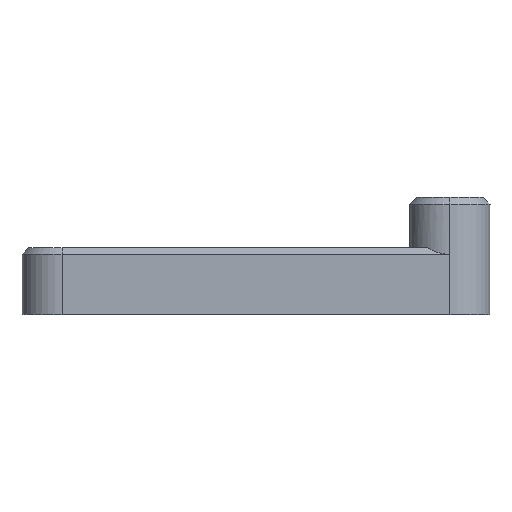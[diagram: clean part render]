
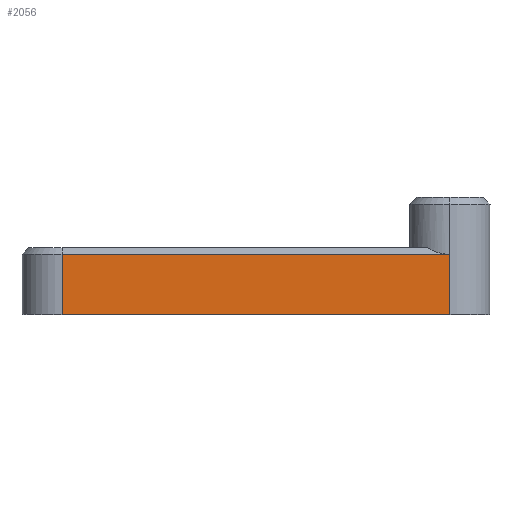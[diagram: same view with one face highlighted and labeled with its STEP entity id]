
A CAD part, left-side view. The second image highlights one B-rep face of the part: STEP entity #2056.
In plain terms, the highlighted planar face has unit normal (-1, 0, 0).
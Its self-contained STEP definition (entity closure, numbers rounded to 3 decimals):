
#455=DIRECTION('',(0.,0.,1.));
#456=VECTOR('',#455,9.);
#457=CARTESIAN_POINT('',(158.377,-310.269,20.872));
#458=LINE('',#457,#456);
#579=DIRECTION('',(0.,1.,0.));
#580=VECTOR('',#579,58.);
#581=CARTESIAN_POINT('',(158.377,-310.269,29.872));
#582=LINE('',#581,#580);
#587=DIRECTION('',(0.,0.,1.));
#588=VECTOR('',#587,9.);
#589=CARTESIAN_POINT('',(158.377,-252.269,20.872));
#590=LINE('',#589,#588);
#600=DIRECTION('',(0.,-1.,0.));
#601=VECTOR('',#600,58.);
#602=CARTESIAN_POINT('',(158.377,-252.269,20.872));
#603=LINE('',#602,#601);
#1439=CARTESIAN_POINT('',(158.377,-310.269,29.872));
#1440=VERTEX_POINT('',#1439);
#1473=CARTESIAN_POINT('',(158.377,-252.269,20.872));
#1474=VERTEX_POINT('',#1473);
#1475=CARTESIAN_POINT('',(158.377,-310.269,20.872));
#1476=VERTEX_POINT('',#1475);
#1493=CARTESIAN_POINT('',(158.377,-252.269,29.872));
#1494=VERTEX_POINT('',#1493);
#2043=CARTESIAN_POINT('',(158.377,-310.269,30.872));
#2044=DIRECTION('',(-1.,0.,0.));
#2045=DIRECTION('',(0.,1.,0.));
#2046=AXIS2_PLACEMENT_3D('',#2043,#2044,#2045);
#2047=PLANE('',#2046);
#2048=ORIENTED_EDGE('',*,*,#2036,.F.);
#2049=ORIENTED_EDGE('',*,*,#1861,.F.);
#2051=ORIENTED_EDGE('',*,*,#2050,.F.);
#2053=ORIENTED_EDGE('',*,*,#2052,.T.);
#2054=EDGE_LOOP('',(#2048,#2049,#2051,#2053));
#2055=FACE_OUTER_BOUND('',#2054,.F.);
#2056=ADVANCED_FACE('',(#2055),#2047,.T.);
#1861=EDGE_CURVE('',#1476,#1440,#458,.T.);
#2036=EDGE_CURVE('',#1440,#1494,#582,.T.);
#2050=EDGE_CURVE('',#1474,#1476,#603,.T.);
#2052=EDGE_CURVE('',#1474,#1494,#590,.T.);
